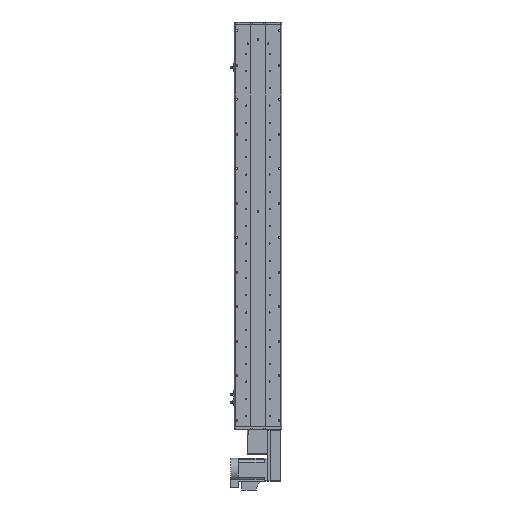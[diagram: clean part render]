
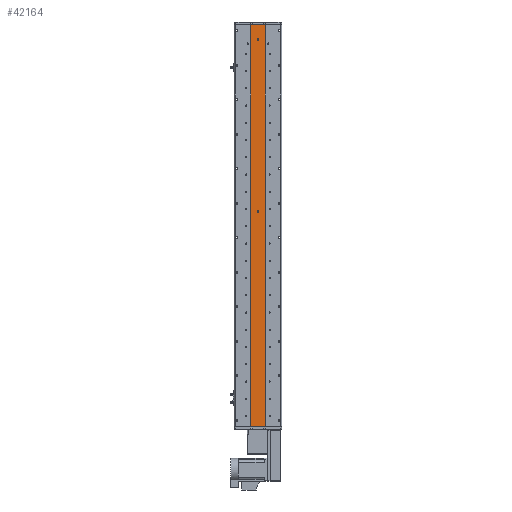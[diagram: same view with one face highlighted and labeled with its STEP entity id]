
A CAD part, front view. The second image highlights one B-rep face of the part: STEP entity #42164.
In plain terms, the highlighted planar face has unit normal (0, -1, 0).
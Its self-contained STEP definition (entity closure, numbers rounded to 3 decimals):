
#752 = PLANE ( 'NONE',  #36365 ) ;
#3431 = CARTESIAN_POINT ( 'NONE',  ( 0., 1., 648.5 ) ) ;
#4758 = LINE ( 'NONE', #33814, #43927 ) ;
#5228 = VERTEX_POINT ( 'NONE', #49173 ) ;
#5392 = EDGE_CURVE ( 'NONE', #7669, #37055, #32830, .T. ) ;
#5822 = ORIENTED_EDGE ( 'NONE', *, *, #5975, .F. ) ;
#5975 = EDGE_CURVE ( 'NONE', #65566, #5228, #38326, .T. ) ;
#6329 = VECTOR ( 'NONE', #54865, 1000. ) ;
#6677 = ORIENTED_EDGE ( 'NONE', *, *, #36324, .F. ) ;
#7516 = CARTESIAN_POINT ( 'NONE',  ( 0., 1., 48.5 ) ) ;
#7669 = VERTEX_POINT ( 'NONE', #20805 ) ;
#8582 = DIRECTION ( 'NONE',  ( 0., 0., -1. ) ) ;
#10899 = EDGE_CURVE ( 'NONE', #18864, #65566, #31145, .T. ) ;
#11011 = AXIS2_PLACEMENT_3D ( 'NONE', #58124, #27501, #63238 ) ;
#12654 = DIRECTION ( 'NONE',  ( 0., 0., -1. ) ) ;
#14045 = CARTESIAN_POINT ( 'NONE',  ( 25., 1., 698.5 ) ) ;
#14593 = ORIENTED_EDGE ( 'NONE', *, *, #58268, .T. ) ;
#18616 = ORIENTED_EDGE ( 'NONE', *, *, #50656, .T. ) ;
#18864 = VERTEX_POINT ( 'NONE', #40120 ) ;
#19152 = DIRECTION ( 'NONE',  ( 1., 0., 0. ) ) ;
#20510 = CARTESIAN_POINT ( 'NONE',  ( 0., 1., 648.5 ) ) ;
#20805 = CARTESIAN_POINT ( 'NONE',  ( 0., 1., 645.5 ) ) ;
#21272 = DIRECTION ( 'NONE',  ( 0., 1., 0. ) ) ;
#21636 = ORIENTED_EDGE ( 'NONE', *, *, #5392, .F. ) ;
#22356 = VECTOR ( 'NONE', #38621, 1000. ) ;
#27501 = DIRECTION ( 'NONE',  ( 0., -1., 0. ) ) ;
#28464 = VERTEX_POINT ( 'NONE', #65127 ) ;
#31145 = LINE ( 'NONE', #14045, #56724 ) ;
#32830 = CIRCLE ( 'NONE', #55002, 3. ) ;
#33771 = FACE_BOUND ( 'NONE', #66336, .T. ) ;
#33814 = CARTESIAN_POINT ( 'NONE',  ( -25., 1., 698.5 ) ) ;
#35965 = LINE ( 'NONE', #58956, #22356 ) ;
#36324 = EDGE_CURVE ( 'NONE', #28464, #65124, #55791, .T. ) ;
#36365 = AXIS2_PLACEMENT_3D ( 'NONE', #56863, #21272, #57073 ) ;
#37055 = VERTEX_POINT ( 'NONE', #56176 ) ;
#37842 = CIRCLE ( 'NONE', #58895, 3. ) ;
#37963 = EDGE_LOOP ( 'NONE', ( #18616, #5822, #57951, #14593 ) ) ;
#38326 = LINE ( 'NONE', #65128, #6329 ) ;
#38621 = DIRECTION ( 'NONE',  ( 1., 0., 0. ) ) ;
#39180 = DIRECTION ( 'NONE',  ( 0., -1., 0. ) ) ;
#39730 = DIRECTION ( 'NONE',  ( 0., 0., -1. ) ) ;
#40120 = CARTESIAN_POINT ( 'NONE',  ( -25., 1., 698.5 ) ) ;
#41796 = CARTESIAN_POINT ( 'NONE',  ( 25., 1., 698.5 ) ) ;
#42164 = ADVANCED_FACE ( 'NONE', ( #59328, #33771, #47304 ), #752, .F. ) ;
#43280 = DIRECTION ( 'NONE',  ( 0., -1., 0. ) ) ;
#43927 = VECTOR ( 'NONE', #49182, 1000. ) ;
#44127 = AXIS2_PLACEMENT_3D ( 'NONE', #7516, #43280, #12654 ) ;
#46938 = VERTEX_POINT ( 'NONE', #64412 ) ;
#47304 = FACE_OUTER_BOUND ( 'NONE', #37963, .T. ) ;
#48858 = ORIENTED_EDGE ( 'NONE', *, *, #53891, .F. ) ;
#49173 = CARTESIAN_POINT ( 'NONE',  ( 25., 1., -698.5 ) ) ;
#49182 = DIRECTION ( 'NONE',  ( 0., 0., -1. ) ) ;
#49292 = DIRECTION ( 'NONE',  ( 0., -1., 0. ) ) ;
#50656 = EDGE_CURVE ( 'NONE', #46938, #5228, #35965, .T. ) ;
#53891 = EDGE_CURVE ( 'NONE', #37055, #7669, #37842, .T. ) ;
#54865 = DIRECTION ( 'NONE',  ( 0., 0., -1. ) ) ;
#55002 = AXIS2_PLACEMENT_3D ( 'NONE', #20510, #49292, #39730 ) ;
#55791 = CIRCLE ( 'NONE', #11011, 3. ) ;
#56092 = CIRCLE ( 'NONE', #44127, 3. ) ;
#56176 = CARTESIAN_POINT ( 'NONE',  ( 0., 1., 651.5 ) ) ;
#56724 = VECTOR ( 'NONE', #19152, 1000. ) ;
#56863 = CARTESIAN_POINT ( 'NONE',  ( 25., 1., 698.5 ) ) ;
#57073 = DIRECTION ( 'NONE',  ( 0., 0., 1. ) ) ;
#57498 = EDGE_CURVE ( 'NONE', #65124, #28464, #56092, .T. ) ;
#57951 = ORIENTED_EDGE ( 'NONE', *, *, #10899, .F. ) ;
#58124 = CARTESIAN_POINT ( 'NONE',  ( 0., 1., 48.5 ) ) ;
#58268 = EDGE_CURVE ( 'NONE', #18864, #46938, #4758, .T. ) ;
#58832 = CARTESIAN_POINT ( 'NONE',  ( 0., 1., 45.5 ) ) ;
#58895 = AXIS2_PLACEMENT_3D ( 'NONE', #3431, #39180, #8582 ) ;
#58956 = CARTESIAN_POINT ( 'NONE',  ( 25., 1., -698.5 ) ) ;
#59328 = FACE_BOUND ( 'NONE', #62515, .T. ) ;
#62515 = EDGE_LOOP ( 'NONE', ( #62963, #6677 ) ) ;
#62963 = ORIENTED_EDGE ( 'NONE', *, *, #57498, .F. ) ;
#63238 = DIRECTION ( 'NONE',  ( 0., 0., -1. ) ) ;
#64412 = CARTESIAN_POINT ( 'NONE',  ( -25., 1., -698.5 ) ) ;
#65124 = VERTEX_POINT ( 'NONE', #58832 ) ;
#65127 = CARTESIAN_POINT ( 'NONE',  ( 0., 1., 51.5 ) ) ;
#65128 = CARTESIAN_POINT ( 'NONE',  ( 25., 1., 698.5 ) ) ;
#65566 = VERTEX_POINT ( 'NONE', #41796 ) ;
#66336 = EDGE_LOOP ( 'NONE', ( #21636, #48858 ) ) ;
